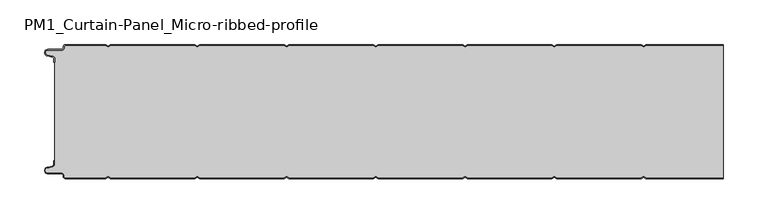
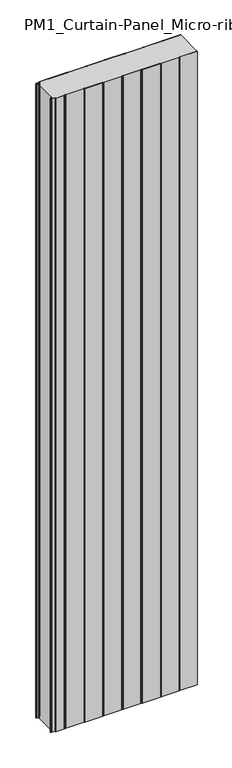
"""IFC4 building model written with IfcOpenShell, lengths in millimetres: plate geometry, PM1_Curtain-Panel_Micro-ribbed-profile : ACH_PM1_Stone-wool-Panel_150M."""

from ifc_helpers import new_model, si_unit, point, frame_2d, origin, origin_with_axes, place, context, project, spatial, polyline, circle_curve, trimmed, segment, composite_curve, outline, extrude, source, transform, mapped, element, save


def pm1_curtain_panel_micro_ribbed_profile_27170c41(model_context):
    return source(origin(), model_context, "Body", "SweptSolid", [
        extrude(outline(composite_curve([segment(trimmed(circle_curve(frame_2d((-377.0, -15.878557)), 2.0), [point((-375.0, -15.878557))], [point((-376.5500978, -13.9298169))], True, "CARTESIAN"), True, "CONTINUOUS"), segment(polyline([(-376.5500978, -13.9298169), (-382.7098239, -12.507732)]), True, "CONTINUOUS"), segment(trimmed(circle_curve(frame_2d((-381.9, -9.0)), 3.6), [point((-382.7098239, -12.507732))], [point((-381.9, -5.4))], False, "CARTESIAN"), True, "CONTINUOUS"), segment(polyline([(-381.9, -5.4), (-366.4, -5.4)]), True, "CONTINUOUS"), segment(trimmed(circle_curve(frame_2d((-366.4, -3.4)), 2.0), [point((-366.4, -5.4))], [point((-364.4, -3.4))], True, "CARTESIAN"), True, "CONTINUOUS"), segment(polyline([(-364.4, -3.4), (-364.4, -2.0)]), True, "CONTINUOUS"), segment(trimmed(circle_curve(frame_2d((-362.4, -2.0)), 2.0), [point((-364.4, -2.0))], [point((-362.4, 0.0))], False, "CARTESIAN"), True, "CONTINUOUS"), segment(polyline([(-362.4, 0.0), (-317.0999995, 0.0), (-314.4, -1.5588455), (-311.7000005, 0.0), (-217.0999995, 0.0), (-214.4, -1.5588455), (-211.7000005, 0.0), (-117.0999995, 0.0), (-114.4, -1.5588455), (-111.7000005, 0.0), (-17.0999995, 0.0), (-14.4, -1.5588455), (-11.7000005, 0.0), (82.9000005, 0.0), (85.6, -1.5588455), (88.2999995, 0.0), (182.9000005, 0.0), (185.6, -1.5588455), (188.2999995, 0.0), (282.9000005, 0.0), (285.6, -1.5588455), (288.2999995, 0.0), (375.0, 0.0), (375.0, -0.8), (288.5143588, -0.8), (285.6, -2.482606), (282.6856412, -0.8), (188.5143588, -0.8), (185.6, -2.482606), (182.6856412, -0.8), (88.5143588, -0.8), (85.6, -2.482606), (82.6856412, -0.8), (-11.4856412, -0.8), (-14.4, -2.482606), (-17.3143588, -0.8), (-111.4856412, -0.8), (-114.4, -2.482606), (-117.3143588, -0.8), (-211.4856412, -0.8), (-214.4, -2.482606), (-217.3143588, -0.8), (-311.4856412, -0.8), (-314.4, -2.482606), (-317.3143588, -0.8), (-362.4, -0.8)]), True, "CONTINUOUS"), segment(trimmed(circle_curve(frame_2d((-362.4, -2.0)), 1.2), [point((-362.4, -0.8))], [point((-363.6, -2.0))], True, "CARTESIAN"), True, "CONTINUOUS"), segment(polyline([(-363.6, -2.0), (-363.6, -3.4)]), True, "CONTINUOUS"), segment(trimmed(circle_curve(frame_2d((-366.4, -3.4)), 2.8), [point((-363.6, -3.4))], [point((-366.4, -6.2))], False, "CARTESIAN"), True, "CONTINUOUS"), segment(polyline([(-366.4, -6.2), (-381.9, -6.2)]), True, "CONTINUOUS"), segment(trimmed(circle_curve(frame_2d((-381.9, -9.0)), 2.8), [point((-381.9, -6.2))], [point((-382.529863, -11.7282362))], True, "CARTESIAN"), True, "CONTINUOUS"), segment(polyline([(-382.529863, -11.7282362), (-376.370137, -13.150321)]), True, "CONTINUOUS"), segment(trimmed(circle_curve(frame_2d((-377.0, -15.878557)), 2.8), [point((-376.370137, -13.150321))], [point((-374.2, -15.878557))], False, "CARTESIAN"), True, "CONTINUOUS"), segment(polyline([(-374.2, -15.878557), (-374.2, -20.0), (-375.0, -20.0), (-375.0, -15.878557)]), True, "CONTINUOUS")], self_intersect=False)), origin_with_axes(), (0.0, 0.0, 1.0), 3500.0),
        extrude(outline(composite_curve([segment(polyline([(-374.2, -134.1214426), (-374.2, -15.8785573)]), True, "CONTINUOUS"), segment(trimmed(circle_curve(frame_2d((-377.0, -15.8785573)), 2.8), [point((-374.2, -15.8785573))], [point((-376.370137, -13.1503212))], True, "CARTESIAN"), True, "CONTINUOUS"), segment(polyline([(-376.370137, -13.1503212), (-382.5298631, -11.7282362)]), True, "CONTINUOUS"), segment(trimmed(circle_curve(frame_2d((-381.9, -9.0)), 2.8), [point((-382.5298631, -11.7282362))], [point((-381.9, -6.2))], False, "CARTESIAN"), True, "CONTINUOUS"), segment(polyline([(-381.9, -6.2), (-366.4000001, -6.2)]), True, "CONTINUOUS"), segment(trimmed(circle_curve(frame_2d((-366.4000001, -3.4)), 2.8), [point((-366.4000001, -6.2))], [point((-363.6000001, -3.4))], True, "CARTESIAN"), True, "CONTINUOUS"), segment(polyline([(-363.6000001, -3.4), (-363.6000001, -2.0)]), True, "CONTINUOUS"), segment(trimmed(circle_curve(frame_2d((-362.4000001, -2.0)), 1.2), [point((-363.6000001, -2.0))], [point((-362.4000001, -0.8))], False, "CARTESIAN"), True, "CONTINUOUS"), segment(polyline([(-362.4000001, -0.8), (-317.3143589, -0.8), (-314.4000001, -2.482606), (-311.4856412, -0.8), (-217.3143589, -0.8), (-214.4000001, -2.482606), (-211.4856412, -0.8), (-117.3143589, -0.8), (-114.4000001, -2.482606), (-111.4856412, -0.8), (-17.3143589, -0.8), (-14.4000001, -2.482606), (-11.4856412, -0.8), (82.6856411, -0.8), (85.5999999, -2.482606), (88.5143588, -0.8), (182.6856411, -0.8), (185.5999999, -2.482606), (188.5143588, -0.8), (282.6856411, -0.8), (285.5999999, -2.482606), (288.5143588, -0.8), (375.0, -0.8), (375.0, -149.2), (288.5143588, -149.2), (285.5999999, -147.517394), (282.6856411, -149.2), (188.5143588, -149.2), (185.5999999, -147.517394), (182.6856411, -149.2), (88.5143588, -149.2), (85.5999999, -147.517394), (82.6856411, -149.2), (-11.4856412, -149.2), (-14.4000001, -147.517394), (-17.3143589, -149.2), (-111.4856412, -149.2), (-114.4000001, -147.517394), (-117.3143589, -149.2), (-211.4856412, -149.2), (-214.4000001, -147.517394), (-217.3143589, -149.2), (-311.4856412, -149.2), (-314.4000001, -147.517394), (-317.3143589, -149.2), (-362.4000001, -149.2)]), True, "CONTINUOUS"), segment(trimmed(circle_curve(frame_2d((-362.4000001, -148.0)), 1.2), [point((-362.4000001, -149.2))], [point((-363.6000001, -148.0))], False, "CARTESIAN"), True, "CONTINUOUS"), segment(polyline([(-363.6000001, -148.0), (-363.6000001, -146.6)]), True, "CONTINUOUS"), segment(trimmed(circle_curve(frame_2d((-366.4000001, -146.6)), 2.8), [point((-363.6000001, -146.6))], [point((-366.4000001, -143.8))], True, "CARTESIAN"), True, "CONTINUOUS"), segment(polyline([(-366.4000001, -143.8), (-381.9, -143.8)]), True, "CONTINUOUS"), segment(trimmed(circle_curve(frame_2d((-381.9, -141.0)), 2.8), [point((-381.9, -143.8))], [point((-382.5298631, -138.2717638))], False, "CARTESIAN"), True, "CONTINUOUS"), segment(polyline([(-382.5298631, -138.2717638), (-376.370137, -136.8496788)]), True, "CONTINUOUS"), segment(trimmed(circle_curve(frame_2d((-377.0, -134.1214426)), 2.8), [point((-376.370137, -136.8496788))], [point((-374.2, -134.1214426))], True, "CARTESIAN"), True, "CONTINUOUS")], self_intersect=False)), origin_with_axes(), (0.0, 0.0, 1.0), 3500.0),
        extrude(outline(composite_curve([segment(polyline([(-375.0, -134.121443), (-375.0, -130.0), (-374.2, -130.0), (-374.2, -134.121443)]), True, "CONTINUOUS"), segment(trimmed(circle_curve(frame_2d((-377.0, -134.121443)), 2.8), [point((-374.2, -134.121443))], [point((-376.370137, -136.8496792))], False, "CARTESIAN"), True, "CONTINUOUS"), segment(polyline([(-376.370137, -136.8496792), (-382.529863, -138.271764)]), True, "CONTINUOUS"), segment(trimmed(circle_curve(frame_2d((-381.9, -141.0)), 2.8), [point((-382.529863, -138.271764))], [point((-381.9, -143.8))], True, "CARTESIAN"), True, "CONTINUOUS"), segment(polyline([(-381.9, -143.8), (-366.4, -143.8)]), True, "CONTINUOUS"), segment(trimmed(circle_curve(frame_2d((-366.4, -146.6)), 2.8), [point((-366.4, -143.8))], [point((-363.6, -146.6))], False, "CARTESIAN"), True, "CONTINUOUS"), segment(polyline([(-363.6, -146.6), (-363.6, -148.0)]), True, "CONTINUOUS"), segment(trimmed(circle_curve(frame_2d((-362.4, -148.0)), 1.2), [point((-363.6, -148.0))], [point((-362.4, -149.2))], True, "CARTESIAN"), True, "CONTINUOUS"), segment(polyline([(-362.4, -149.2), (-317.3143588, -149.2), (-314.4, -147.517394), (-311.4856412, -149.2), (-217.3143588, -149.2), (-214.4, -147.517394), (-211.4856412, -149.2), (-117.3143588, -149.2), (-114.4, -147.517394), (-111.4856412, -149.2), (-17.3143588, -149.2), (-14.4, -147.517394), (-11.4856412, -149.2), (82.6856412, -149.2), (85.6, -147.517394), (88.5143588, -149.2), (182.6856412, -149.2), (185.6, -147.517394), (188.5143588, -149.2), (282.6856412, -149.2), (285.6, -147.517394), (288.5143588, -149.2), (375.0, -149.2), (375.0, -150.0), (288.2999995, -150.0), (285.6, -148.4411545), (282.9000005, -150.0), (188.2999995, -150.0), (185.6, -148.4411545), (182.9000005, -150.0), (88.2999995, -150.0), (85.6, -148.4411545), (82.9000005, -150.0), (-11.7000005, -150.0), (-14.4, -148.4411545), (-17.0999995, -150.0), (-111.7000005, -150.0), (-114.4, -148.4411545), (-117.0999995, -150.0), (-211.7000005, -150.0), (-214.4, -148.4411545), (-217.0999995, -150.0), (-311.7000005, -150.0), (-314.4, -148.4411545), (-317.0999995, -150.0), (-362.4, -150.0)]), True, "CONTINUOUS"), segment(trimmed(circle_curve(frame_2d((-362.4, -148.0)), 2.0), [point((-362.4, -150.0))], [point((-364.4, -148.0))], False, "CARTESIAN"), True, "CONTINUOUS"), segment(polyline([(-364.4, -148.0), (-364.4, -146.6)]), True, "CONTINUOUS"), segment(trimmed(circle_curve(frame_2d((-366.4, -146.6)), 2.0), [point((-364.4, -146.6))], [point((-366.4, -144.6))], True, "CARTESIAN"), True, "CONTINUOUS"), segment(polyline([(-366.4, -144.6), (-381.9, -144.6)]), True, "CONTINUOUS"), segment(trimmed(circle_curve(frame_2d((-381.9, -141.0)), 3.6), [point((-381.9, -144.6))], [point((-382.7098239, -137.4922678))], False, "CARTESIAN"), True, "CONTINUOUS"), segment(polyline([(-382.7098239, -137.4922678), (-376.5500979, -136.070183)]), True, "CONTINUOUS"), segment(trimmed(circle_curve(frame_2d((-377.0, -134.121443)), 2.0), [point((-376.5500979, -136.070183))], [point((-375.0, -134.121443))], True, "CARTESIAN"), True, "CONTINUOUS")], self_intersect=False)), origin_with_axes(), (0.0, 0.0, 1.0), 3500.0),
    ])


if __name__ == "__main__":
    model = new_model("IFC4")
    model_context = context("Model", 3, world=origin())
    ifc_project = project(units=[si_unit("LENGTHUNIT", "METRE", prefix="MILLI")], contexts=[model_context])
    site = spatial("IfcSite", under=ifc_project)
    building = spatial("IfcBuilding", under=site)
    placement = place(None, origin())
    pm1_curtain_panel_micro_ribbed_profile_shape = pm1_curtain_panel_micro_ribbed_profile_27170c41(model_context)
    element("IfcPlate", 1, ObjectType="PM1_Curtain-Panel_Micro-ribbed-profile : ACH_PM1_Stone-wool-Panel_150M", at=placement, inside=building, context=model_context, shape_type="MappedRepresentation", body=[
        mapped(pm1_curtain_panel_micro_ribbed_profile_shape, transform((0.0, 0.0, 0.0), x_axis=(1.0, 0.0, 0.0), y_axis=(0.0, 1.0, 0.0), z_axis=(0.0, 0.0, 1.0))),
    ])
    save(model, "model.ifc")
